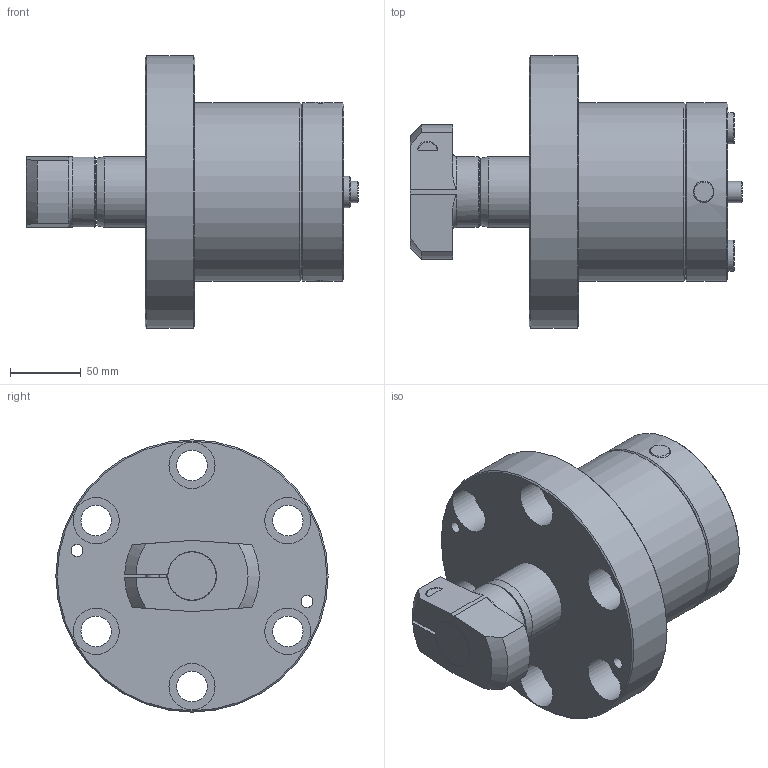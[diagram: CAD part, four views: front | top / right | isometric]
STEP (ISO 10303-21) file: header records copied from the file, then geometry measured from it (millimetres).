
FILE_DESCRIPTION(/* description */ (''),/* implementation_level */ '2;1');
FILE_NAME(/* name */ 'P:\Standard products\2. QDC Clamping Systems\5. MSR - 2 Pos. Swing Clamp\MSR-141_S (11-8-22).stp',/* time_stamp */ '2022-08-11T14:12:29+02:00',/* author */ ('schothorsth'),/* organization */ (''),/* preprocessor_version */ 'ST-DEVELOPER v17.2',/* originating_system */ 'Autodesk Inventor 2019',/* authorisation */ '');
FILE_SCHEMA (('AUTOMOTIVE_DESIGN { 1 0 10303 214 3 1 1 }'));
Length unit declared in the file: millimetre
Products named in the file (1): MSR-141_S (11-8-22)
Bounding box: 234 x 191.9 x 191.9 mm (x, y, z)
Volume: 2411802.8 mm3; surface area: 161353.5 mm2
Topology: 1 solids, 1 shells, 82 faces, 217 edges, 153 vertices
Faces by surface type: cylinder 30, plane 30, cone 17, torus 5
Full cylindrical faces by diameter (mm): 8.376 x2, 10 x1, 14.95 x1, 21.5 x6, 22 x2, 32.5 x6, 33 x1, 36 x1, 49.92 x1, 125.9 x2, 191.9 x1
Entity records: 2987 total; most frequent: CARTESIAN_POINT 650, DIRECTION 477, ORIENTED_EDGE 434, EDGE_CURVE 217, AXIS2_PLACEMENT_3D 203, VERTEX_POINT 153, CIRCLE 120, EDGE_LOOP 116
